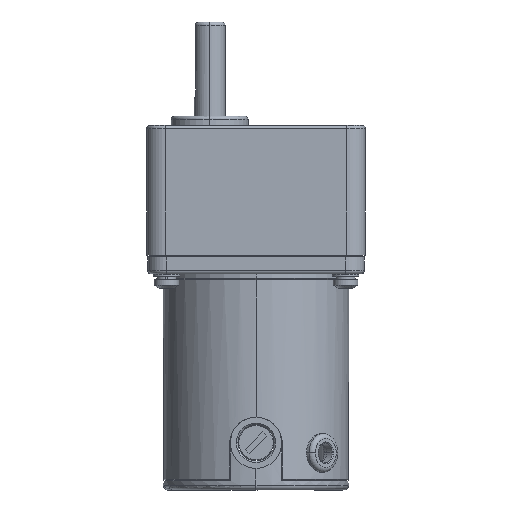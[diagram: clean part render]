
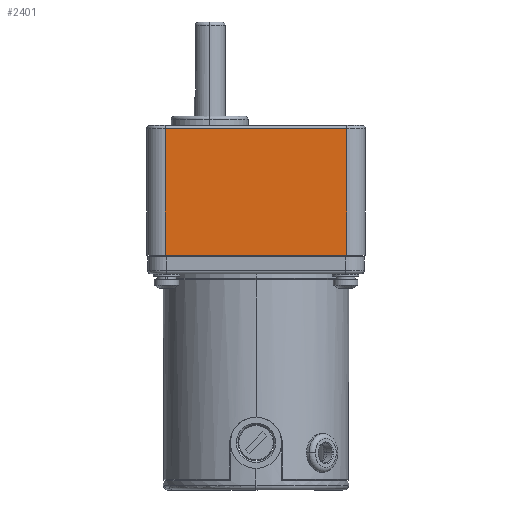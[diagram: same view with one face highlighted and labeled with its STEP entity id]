
A CAD part, left-side view. The second image highlights one B-rep face of the part: STEP entity #2401.
In plain terms, the highlighted planar face has unit normal (-1, 0, 0).
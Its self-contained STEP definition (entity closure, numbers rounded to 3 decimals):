
#405 = CARTESIAN_POINT ( 'NONE',  ( -35.4, 0., 41. ) ) ;
#414 = CARTESIAN_POINT ( 'NONE',  ( -35.4, 29.4, 41. ) ) ;
#856 = ORIENTED_EDGE ( 'NONE', *, *, #8298, .F. ) ;
#1010 = AXIS2_PLACEMENT_3D ( 'NONE', #6575, #1908, #11433 ) ;
#1044 = CARTESIAN_POINT ( 'NONE',  ( -35.4, 29.4, 0. ) ) ;
#1319 = CARTESIAN_POINT ( 'NONE',  ( -35.4, 29.4, 20.5 ) ) ;
#1460 = LINE ( 'NONE', #12240, #5831 ) ;
#1647 = CARTESIAN_POINT ( 'NONE',  ( -35.4, -29.4, 0. ) ) ;
#1908 = DIRECTION ( 'NONE',  ( 1., 0., 0. ) ) ;
#2279 = VERTEX_POINT ( 'NONE', #1647 ) ;
#2401 = ADVANCED_FACE ( 'NONE', ( #5705 ), #9595, .F. ) ;
#3190 = LINE ( 'NONE', #405, #8088 ) ;
#3850 = ORIENTED_EDGE ( 'NONE', *, *, #12474, .F. ) ;
#4607 = ORIENTED_EDGE ( 'NONE', *, *, #11171, .F. ) ;
#5062 = DIRECTION ( 'NONE',  ( 0., 0., 1. ) ) ;
#5705 = FACE_OUTER_BOUND ( 'NONE', #10408, .T. ) ;
#5793 = CARTESIAN_POINT ( 'NONE',  ( -35.4, 0., 0. ) ) ;
#5831 = VECTOR ( 'NONE', #6511, 1000. ) ;
#6313 = VERTEX_POINT ( 'NONE', #11731 ) ;
#6347 = ORIENTED_EDGE ( 'NONE', *, *, #9140, .T. ) ;
#6428 = VECTOR ( 'NONE', #5062, 1000. ) ;
#6511 = DIRECTION ( 'NONE',  ( 0., 0., -1. ) ) ;
#6575 = CARTESIAN_POINT ( 'NONE',  ( -35.4, 0., 20.5 ) ) ;
#6925 = DIRECTION ( 'NONE',  ( 0., -1., 0. ) ) ;
#7010 = LINE ( 'NONE', #1319, #6428 ) ;
#7115 = DIRECTION ( 'NONE',  ( 0., -1., 0. ) ) ;
#7799 = LINE ( 'NONE', #5793, #10347 ) ;
#8088 = VECTOR ( 'NONE', #7115, 1000. ) ;
#8298 = EDGE_CURVE ( 'NONE', #10659, #10287, #7010, .T. ) ;
#9140 = EDGE_CURVE ( 'NONE', #10659, #2279, #7799, .T. ) ;
#9595 = PLANE ( 'NONE',  #1010 ) ;
#10287 = VERTEX_POINT ( 'NONE', #414 ) ;
#10347 = VECTOR ( 'NONE', #6925, 1000. ) ;
#10408 = EDGE_LOOP ( 'NONE', ( #4607, #856, #6347, #3850 ) ) ;
#10659 = VERTEX_POINT ( 'NONE', #1044 ) ;
#11171 = EDGE_CURVE ( 'NONE', #10287, #6313, #3190, .T. ) ;
#11433 = DIRECTION ( 'NONE',  ( 0., 0., -1. ) ) ;
#11731 = CARTESIAN_POINT ( 'NONE',  ( -35.4, -29.4, 41. ) ) ;
#12240 = CARTESIAN_POINT ( 'NONE',  ( -35.4, -29.4, 20.5 ) ) ;
#12474 = EDGE_CURVE ( 'NONE', #6313, #2279, #1460, .T. ) ;
